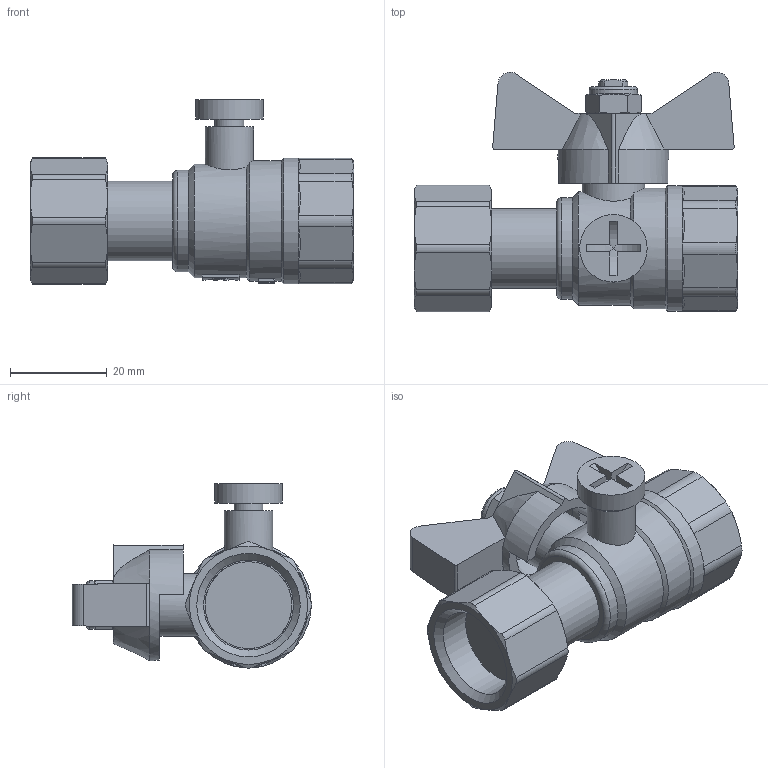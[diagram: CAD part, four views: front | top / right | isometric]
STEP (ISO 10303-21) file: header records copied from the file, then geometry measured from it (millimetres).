
FILE_DESCRIPTION(('STEP AP203'), '1');
FILE_NAME('VT.807.N.0404', '', ('UNSPECIFIED'), ('UNSPECIFIED'), 'C3D Converter', 'C3D Toolkit', '');
FILE_SCHEMA(('CONFIG_CONTROL_DESIGN'));
Length unit declared in the file: millimetre
Products named in the file (1): ВР.491816.041.000 СБ
Bounding box: 67 x 49.59 x 38.23 mm (x, y, z)
Volume: 31137 mm3; surface area: 13304.5 mm2
Topology: 2 solids, 2 shells, 258 faces, 649 edges, 415 vertices
Faces by surface type: plane 109, cylinder 55, cone 50, extrusion 40, torus 4
Full cylindrical faces by diameter (mm): 6 x1, 8 x1, 10 x2, 13 x1, 14 x1, 16.5 x2, 18 x1, 18.5 x1, 18.632 x2, 21 x1, 23.5 x1, 25 x1, 26 x1
Entity records: 12169 total; most frequent: CARTESIAN_POINT 6463, ORIENTED_EDGE 1234, DIRECTION 995, EDGE_CURVE 617, VERTEX_POINT 415, AXIS2_PLACEMENT_3D 367, EDGE_LOOP 310, FACE_BOUND 264
